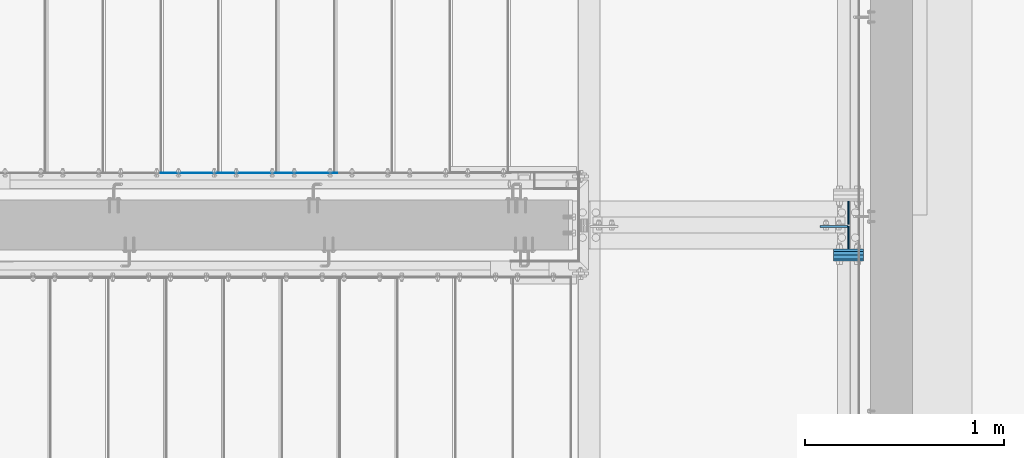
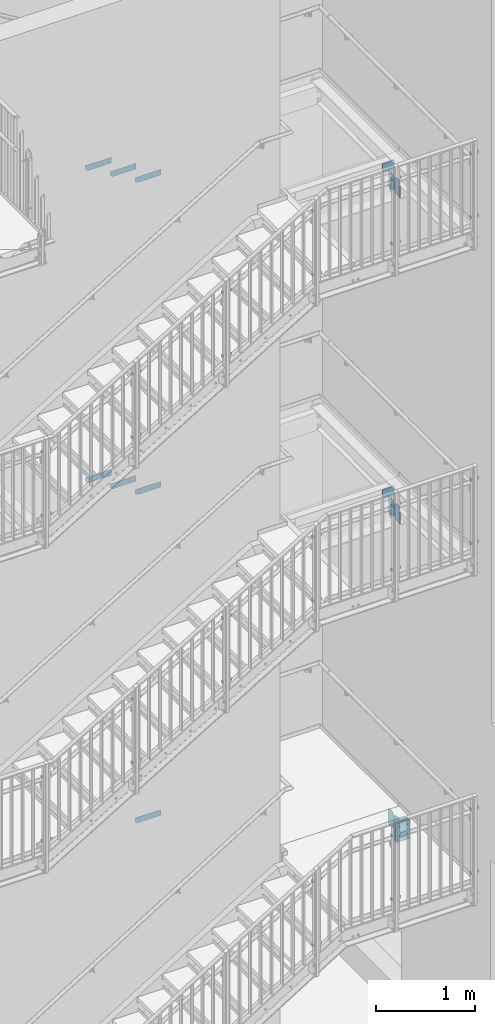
# One storey, part 63 of 410: 17 plates, 48 openings.
"""IFC2X3 building model written with IfcOpenShell, lengths in millimetres."""

from ifc_helpers import new_model, entity, si_unit, converted_unit, point, frame, frame_2d, origin, origin_with_axes, origin_2d_with_axis, place, context, project, spatial, polyline, circle_curve, line_curve, trimmed, segment, composite_curve, circle, outline, extrude, material, layer, layer_set, element, save


model = new_model("IFC2X3")

# Units and contexts
model_context = context("Model", 3, precision=1e-09, world=origin_with_axes())
ifc_project = project(units=[si_unit("LENGTHUNIT", "METRE", prefix="MILLI"), si_unit("AREAUNIT", "SQUARE_METRE"), si_unit("VOLUMEUNIT", "CUBIC_METRE"), converted_unit("PLANEANGLEUNIT", "DEGREE", entity("IfcPlaneAngleMeasure", 0.01745329), si_unit("PLANEANGLEUNIT", "RADIAN"), dimensions=[0, 0, 0, 0, 0, 0, 0])], contexts=[model_context])

# Site, building, storey
site_placement = place(None, origin_with_axes())
site = spatial("IfcSite", under=ifc_project, at=site_placement, Name="mKR Teilneubau & Sanierung BA1 - Ostfildern", CompositionType="ELEMENT")
building_placement = place(site_placement, origin_with_axes())
building = spatial("IfcBuilding", under=site, at=building_placement, Name="Struktur 1", CompositionType="ELEMENT")
storey_placement = place(building_placement, origin_with_axes())
storey = spatial("IfcBuildingStorey", under=building, at=storey_placement, Name="Default Storey", CompositionType="ELEMENT", Elevation=0.0)

# Plate, openings
ifc_material = material(Name="S235JR")
ifc_layer_1 = layer(ifc_material, 3.0)
ifc_layer_set_1 = layer_set([ifc_layer_1], Name="S235JR")
plate_1_placement = place(None, frame((35.0, 17239.999999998, 6800.0), z_axis=(0.0, 1.0, 0.0), x_axis=(0.0, 0.0, -1.0)))
plate_1 = element("IfcPlate", 1, at=plate_1_placement, inside=storey, material=ifc_layer_set_1, Name="Grate_Step#2", ObjectType="Grate_Step#2", context=model_context, shape_type="SweptSolid", body=[
    extrude(outline(polyline([(0.0, 0.0), (70.0, 0.0), (70.0, 275.0), (40.0, 305.0), (0.0, 305.0), (0.0, 0.0)])), origin_with_axes(), (0.0, 0.0, 1.0), 3.0),
])
opening_1_placement = place(plate_1_placement, frame((55.0, 215.0, 3.5), z_axis=(0.0, 0.0, -1.0), x_axis=(0.0, 1.0, 0.0)))
element("IfcOpeningElement", 2, at=opening_1_placement, cuts=plate_1, ObjectType="Opening", context=model_context, shape_type="SweptSolid", body=[
    extrude(outline(composite_curve([segment(trimmed(line_curve((-9.5, -7.001), (1.0, 0.0), 19.0), [point((-9.5, -7.001))], [point((9.5, -7.001))], True, "CARTESIAN"), True, "CONTINUOUS"), segment(trimmed(circle_curve(frame_2d((9.5, 0.0), x_axis=(1.0, 0.0)), 7.001), [point((9.5, -7.001))], [point((9.5, 7.001))], True, "CARTESIAN"), True, "CONTINUOUS"), segment(trimmed(line_curve((9.5, 7.001), (-1.0, 0.0), 19.0), [point((9.5, 7.001))], [point((-9.5, 7.001))], True, "CARTESIAN"), True, "CONTINUOUS"), segment(trimmed(circle_curve(frame_2d((-9.5, 0.0), x_axis=(1.0, 0.0)), 7.001), [point((-9.5, 7.001))], [point((-9.5, -7.001))], True, "CARTESIAN"), True, "CONTINUOUS")], self_intersect=False)), origin(), (0.0, 0.0, 1.0), 4.0),
])
opening_2_placement = place(plate_1_placement, frame((55.0, 35.0, 3.5), z_axis=(0.0, 0.0, -1.0), x_axis=(0.0, 1.0, 0.0)))
element("IfcOpeningElement", 3, at=opening_2_placement, cuts=plate_1, ObjectType="Opening", context=model_context, shape_type="SweptSolid", body=[
    extrude(circle(Radius=7.001, at=origin_2d_with_axis()), origin(), (0.0, 0.0, 1.0), 4.0),
])

plate_2_placement = place(None, frame((325.0, 17239.999999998, 6625.0), z_axis=(0.0, 1.0, 0.0), x_axis=(0.0, 0.0, -1.0)))
plate_2 = element("IfcPlate", 4, at=plate_2_placement, inside=storey, material=ifc_layer_set_1, Name="Grate_Step#2", ObjectType="Grate_Step#2", context=model_context, shape_type="SweptSolid", body=[
    extrude(outline(polyline([(0.0, 0.0), (70.0, 0.0), (70.0, 275.0), (40.0, 305.0), (0.0, 305.0), (0.0, 0.0)])), origin_with_axes(), (0.0, 0.0, 1.0), 3.0),
])
opening_3_placement = place(plate_2_placement, frame((55.0, 215.0, 3.5), z_axis=(0.0, 0.0, -1.0), x_axis=(0.0, 1.0, 0.0)))
element("IfcOpeningElement", 5, at=opening_3_placement, cuts=plate_2, ObjectType="Opening", context=model_context, shape_type="SweptSolid", body=[
    extrude(outline(composite_curve([segment(trimmed(line_curve((-9.5, -7.001), (1.0, 0.0), 19.0), [point((-9.5, -7.001))], [point((9.5, -7.001))], True, "CARTESIAN"), True, "CONTINUOUS"), segment(trimmed(circle_curve(frame_2d((9.5, 0.0), x_axis=(1.0, 0.0)), 7.001), [point((9.5, -7.001))], [point((9.5, 7.001))], True, "CARTESIAN"), True, "CONTINUOUS"), segment(trimmed(line_curve((9.5, 7.001), (-1.0, 0.0), 19.0), [point((9.5, 7.001))], [point((-9.5, 7.001))], True, "CARTESIAN"), True, "CONTINUOUS"), segment(trimmed(circle_curve(frame_2d((-9.5, 0.0), x_axis=(1.0, 0.0)), 7.001), [point((-9.5, 7.001))], [point((-9.5, -7.001))], True, "CARTESIAN"), True, "CONTINUOUS")], self_intersect=False)), origin(), (0.0, 0.0, 1.0), 4.0),
])
opening_4_placement = place(plate_2_placement, frame((55.0, 35.0, 3.5), z_axis=(0.0, 0.0, -1.0), x_axis=(0.0, 1.0, 0.0)))
element("IfcOpeningElement", 6, at=opening_4_placement, cuts=plate_2, ObjectType="Opening", context=model_context, shape_type="SweptSolid", body=[
    extrude(circle(Radius=7.001, at=origin_2d_with_axis()), origin(), (0.0, 0.0, 1.0), 4.0),
])

plate_3_placement = place(None, frame((615.0, 17239.999999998, 6450.0), z_axis=(0.0, 1.0, 0.0), x_axis=(0.0, 0.0, -1.0)))
plate_3 = element("IfcPlate", 7, at=plate_3_placement, inside=storey, material=ifc_layer_set_1, Name="Grate_Step#2", ObjectType="Grate_Step#2", context=model_context, shape_type="SweptSolid", body=[
    extrude(outline(polyline([(0.0, 0.0), (70.0, 0.0), (70.0, 275.0), (40.0, 305.0), (0.0, 305.0), (0.0, 0.0)])), origin_with_axes(), (0.0, 0.0, 1.0), 3.0),
])
opening_5_placement = place(plate_3_placement, frame((55.0, 215.0, 3.5), z_axis=(0.0, 0.0, -1.0), x_axis=(0.0, 1.0, 0.0)))
element("IfcOpeningElement", 8, at=opening_5_placement, cuts=plate_3, ObjectType="Opening", context=model_context, shape_type="SweptSolid", body=[
    extrude(outline(composite_curve([segment(trimmed(line_curve((-9.5, -7.001), (1.0, 0.0), 19.0), [point((-9.5, -7.001))], [point((9.5, -7.001))], True, "CARTESIAN"), True, "CONTINUOUS"), segment(trimmed(circle_curve(frame_2d((9.5, 0.0), x_axis=(1.0, 0.0)), 7.001), [point((9.5, -7.001))], [point((9.5, 7.001))], True, "CARTESIAN"), True, "CONTINUOUS"), segment(trimmed(line_curve((9.5, 7.001), (-1.0, 0.0), 19.0), [point((9.5, 7.001))], [point((-9.5, 7.001))], True, "CARTESIAN"), True, "CONTINUOUS"), segment(trimmed(circle_curve(frame_2d((-9.5, 0.0), x_axis=(1.0, 0.0)), 7.001), [point((-9.5, 7.001))], [point((-9.5, -7.001))], True, "CARTESIAN"), True, "CONTINUOUS")], self_intersect=False)), origin(), (0.0, 0.0, 1.0), 4.0),
])
opening_6_placement = place(plate_3_placement, frame((55.0, 35.0, 3.5), z_axis=(0.0, 0.0, -1.0), x_axis=(0.0, 1.0, 0.0)))
element("IfcOpeningElement", 9, at=opening_6_placement, cuts=plate_3, ObjectType="Opening", context=model_context, shape_type="SweptSolid", body=[
    extrude(circle(Radius=7.001, at=origin_2d_with_axis()), origin(), (0.0, 0.0, 1.0), 4.0),
])

plate_4_placement = place(None, frame((615.0, 17239.999999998, 2608.6956525), z_axis=(0.0, 1.0, 0.0), x_axis=(0.0, 0.0, -1.0)))
plate_4 = element("IfcPlate", 10, at=plate_4_placement, inside=storey, material=ifc_layer_set_1, Name="Grate_Step#2", ObjectType="Grate_Step#2", context=model_context, shape_type="SweptSolid", body=[
    extrude(outline(polyline([(0.0, 0.0), (70.0, 0.0), (70.0, 275.0), (40.0, 305.0), (0.0, 305.0), (0.0, 0.0)])), origin_with_axes(), (0.0, 0.0, 1.0), 3.0),
])
opening_7_placement = place(plate_4_placement, frame((55.0, 215.0, 3.5), z_axis=(0.0, 0.0, -1.0), x_axis=(0.0, 1.0, 0.0)))
element("IfcOpeningElement", 11, at=opening_7_placement, cuts=plate_4, ObjectType="Opening", context=model_context, shape_type="SweptSolid", body=[
    extrude(outline(composite_curve([segment(trimmed(line_curve((-9.5, -7.001), (1.0, 0.0), 19.0), [point((-9.5, -7.001))], [point((9.5, -7.001))], True, "CARTESIAN"), True, "CONTINUOUS"), segment(trimmed(circle_curve(frame_2d((9.5, 0.0), x_axis=(1.0, 0.0)), 7.001), [point((9.5, -7.001))], [point((9.5, 7.001))], True, "CARTESIAN"), True, "CONTINUOUS"), segment(trimmed(line_curve((9.5, 7.001), (-1.0, 0.0), 19.0), [point((9.5, 7.001))], [point((-9.5, 7.001))], True, "CARTESIAN"), True, "CONTINUOUS"), segment(trimmed(circle_curve(frame_2d((-9.5, 0.0), x_axis=(1.0, 0.0)), 7.001), [point((-9.5, 7.001))], [point((-9.5, -7.001))], True, "CARTESIAN"), True, "CONTINUOUS")], self_intersect=False)), origin(), (0.0, 0.0, 1.0), 4.0),
])
opening_8_placement = place(plate_4_placement, frame((55.0, 35.0, 3.5), z_axis=(0.0, 0.0, -1.0), x_axis=(0.0, 1.0, 0.0)))
element("IfcOpeningElement", 12, at=opening_8_placement, cuts=plate_4, ObjectType="Opening", context=model_context, shape_type="SweptSolid", body=[
    extrude(circle(Radius=7.001, at=origin_2d_with_axis()), origin(), (0.0, 0.0, 1.0), 4.0),
])

plate_5_placement = place(None, frame((325.0, 17239.999999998, 2782.608696), z_axis=(0.0, 1.0, 0.0), x_axis=(0.0, 0.0, -1.0)))
plate_5 = element("IfcPlate", 13, at=plate_5_placement, inside=storey, material=ifc_layer_set_1, Name="Grate_Step#2", ObjectType="Grate_Step#2", context=model_context, shape_type="SweptSolid", body=[
    extrude(outline(polyline([(0.0, 0.0), (70.0, 0.0), (70.0, 275.0), (40.0, 305.0), (0.0, 305.0), (0.0, 0.0)])), origin_with_axes(), (0.0, 0.0, 1.0), 3.0),
])
opening_9_placement = place(plate_5_placement, frame((55.0, 215.0, 3.5), z_axis=(0.0, 0.0, -1.0), x_axis=(0.0, 1.0, 0.0)))
element("IfcOpeningElement", 14, at=opening_9_placement, cuts=plate_5, ObjectType="Opening", context=model_context, shape_type="SweptSolid", body=[
    extrude(outline(composite_curve([segment(trimmed(line_curve((-9.5, -7.001), (1.0, 0.0), 19.0), [point((-9.5, -7.001))], [point((9.5, -7.001))], True, "CARTESIAN"), True, "CONTINUOUS"), segment(trimmed(circle_curve(frame_2d((9.5, 0.0), x_axis=(1.0, 0.0)), 7.001), [point((9.5, -7.001))], [point((9.5, 7.001))], True, "CARTESIAN"), True, "CONTINUOUS"), segment(trimmed(line_curve((9.5, 7.001), (-1.0, 0.0), 19.0), [point((9.5, 7.001))], [point((-9.5, 7.001))], True, "CARTESIAN"), True, "CONTINUOUS"), segment(trimmed(circle_curve(frame_2d((-9.5, 0.0), x_axis=(1.0, 0.0)), 7.001), [point((-9.5, 7.001))], [point((-9.5, -7.001))], True, "CARTESIAN"), True, "CONTINUOUS")], self_intersect=False)), origin(), (0.0, 0.0, 1.0), 4.0),
])
opening_10_placement = place(plate_5_placement, frame((55.0, 35.0, 3.5), z_axis=(0.0, 0.0, -1.0), x_axis=(0.0, 1.0, 0.0)))
element("IfcOpeningElement", 15, at=opening_10_placement, cuts=plate_5, ObjectType="Opening", context=model_context, shape_type="SweptSolid", body=[
    extrude(circle(Radius=7.001, at=origin_2d_with_axis()), origin(), (0.0, 0.0, 1.0), 4.0),
])

plate_6_placement = place(None, frame((35.0, 17239.999999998, 2956.5217395), z_axis=(0.0, 1.0, 0.0), x_axis=(0.0, 0.0, -1.0)))
plate_6 = element("IfcPlate", 16, at=plate_6_placement, inside=storey, material=ifc_layer_set_1, Name="Grate_Step#2", ObjectType="Grate_Step#2", context=model_context, shape_type="SweptSolid", body=[
    extrude(outline(polyline([(0.0, 0.0), (70.0, 0.0), (70.0, 275.0), (40.0, 305.0), (0.0, 305.0), (0.0, 0.0)])), origin_with_axes(), (0.0, 0.0, 1.0), 3.0),
])
opening_11_placement = place(plate_6_placement, frame((55.0, 35.0, 3.5), z_axis=(0.0, 0.0, -1.0), x_axis=(0.0, 1.0, 0.0)))
element("IfcOpeningElement", 17, at=opening_11_placement, cuts=plate_6, ObjectType="Opening", context=model_context, shape_type="SweptSolid", body=[
    extrude(circle(Radius=7.001, at=origin_2d_with_axis()), origin(), (0.0, 0.0, 1.0), 4.0),
])
opening_12_placement = place(plate_6_placement, frame((55.0, 215.0, 3.5), z_axis=(0.0, 0.0, -1.0), x_axis=(0.0, 1.0, 0.0)))
element("IfcOpeningElement", 18, at=opening_12_placement, cuts=plate_6, ObjectType="Opening", context=model_context, shape_type="SweptSolid", body=[
    extrude(outline(composite_curve([segment(trimmed(line_curve((-9.5, -7.001), (1.0, 0.0), 19.0), [point((-9.5, -7.001))], [point((9.5, -7.001))], True, "CARTESIAN"), True, "CONTINUOUS"), segment(trimmed(circle_curve(frame_2d((9.5, 0.0), x_axis=(1.0, 0.0)), 7.001), [point((9.5, -7.001))], [point((9.5, 7.001))], True, "CARTESIAN"), True, "CONTINUOUS"), segment(trimmed(line_curve((9.5, 7.001), (-1.0, 0.0), 19.0), [point((9.5, 7.001))], [point((-9.5, 7.001))], True, "CARTESIAN"), True, "CONTINUOUS"), segment(trimmed(circle_curve(frame_2d((-9.5, 0.0), x_axis=(1.0, 0.0)), 7.001), [point((-9.5, 7.001))], [point((-9.5, -7.001))], True, "CARTESIAN"), True, "CONTINUOUS")], self_intersect=False)), origin(), (0.0, 0.0, 1.0), 4.0),
])

plate_7_placement = place(None, frame((615.0, 17239.999999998, -1430.4), z_axis=(0.0, 1.0, 0.0), x_axis=(0.0, 0.0, -1.0)))
plate_7 = element("IfcPlate", 19, at=plate_7_placement, inside=storey, material=ifc_layer_set_1, Name="Grate_Step#2", ObjectType="Grate_Step#2", context=model_context, shape_type="SweptSolid", body=[
    extrude(outline(polyline([(0.0, 0.0), (70.0, 0.0), (70.0, 275.0), (40.0, 305.0), (0.0, 305.0), (0.0, 0.0)])), origin_with_axes(), (0.0, 0.0, 1.0), 3.0),
])
opening_13_placement = place(plate_7_placement, frame((55.0, 35.0, 3.5), z_axis=(0.0, 0.0, -1.0), x_axis=(0.0, 1.0, 0.0)))
element("IfcOpeningElement", 20, at=opening_13_placement, cuts=plate_7, ObjectType="Opening", context=model_context, shape_type="SweptSolid", body=[
    extrude(circle(Radius=7.001, at=origin_2d_with_axis()), origin(), (0.0, 0.0, 1.0), 4.0),
])
opening_14_placement = place(plate_7_placement, frame((55.0, 215.0, 3.5), z_axis=(0.0, 0.0, -1.0), x_axis=(0.0, 1.0, 0.0)))
element("IfcOpeningElement", 21, at=opening_14_placement, cuts=plate_7, ObjectType="Opening", context=model_context, shape_type="SweptSolid", body=[
    extrude(outline(composite_curve([segment(trimmed(line_curve((-9.5, -7.001), (1.0, 0.0), 19.0), [point((-9.5, -7.001))], [point((9.5, -7.001))], True, "CARTESIAN"), True, "CONTINUOUS"), segment(trimmed(circle_curve(frame_2d((9.5, 0.0), x_axis=(1.0, 0.0)), 7.001), [point((9.5, -7.001))], [point((9.5, 7.001))], True, "CARTESIAN"), True, "CONTINUOUS"), segment(trimmed(line_curve((9.5, 7.001), (-1.0, 0.0), 19.0), [point((9.5, 7.001))], [point((-9.5, 7.001))], True, "CARTESIAN"), True, "CONTINUOUS"), segment(trimmed(circle_curve(frame_2d((-9.5, 0.0), x_axis=(1.0, 0.0)), 7.001), [point((-9.5, 7.001))], [point((-9.5, -7.001))], True, "CARTESIAN"), True, "CONTINUOUS")], self_intersect=False)), origin(), (0.0, 0.0, 1.0), 4.0),
])

ifc_layer_2 = layer(ifc_material, 30.0)
ifc_layer_set_2 = layer_set([ifc_layer_2], Name="S235JR")
plate_8_placement = place(None, frame((3180.001468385, 16830.0, -2325.599999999), z_axis=(0.0, 1.0, 0.0), x_axis=(-1.0, 0.0, 0.0)))
plate_8 = element("IfcPlate", 22, at=plate_8_placement, inside=storey, material=ifc_layer_set_2, Name="-", ObjectType="-", context=model_context, shape_type="SweptSolid", body=[
    extrude(outline(polyline([(-75.0, -120.0), (75.0, -120.0), (75.0, 120.0), (-75.0, 120.0), (-75.0, -120.0)])), origin_with_axes(), (0.0, 0.0, -1.0), 30.0),
])
opening_15_placement = place(plate_8_placement, frame((75.001, 120.0, -30.0), z_axis=(-1.0, 0.0, 0.0), x_axis=(0.0, -1.0, 0.0)))
element("IfcOpeningElement", 23, at=opening_15_placement, cuts=plate_8, ObjectType="Opening", context=model_context, shape_type="SweptSolid", body=[
    extrude(outline(polyline([(0.0, 0.0), (9.0, 0.0), (0.0, 9.0), (0.0, 0.0)])), origin(), (0.0, 0.0, 1.0), 150.022),
])
opening_16_placement = place(plate_8_placement, frame((33.999, 70.0, 0.5), z_axis=(0.0, 0.0, 1.0), x_axis=(1.0, 0.0, 0.0)))
element("IfcOpeningElement", 24, at=opening_16_placement, cuts=plate_8, ObjectType="Opening", context=model_context, shape_type="SweptSolid", body=[
    extrude(circle(Radius=11.001, at=frame_2d((11.001, 0.0), x_axis=(1.0, 0.0))), origin(), (0.0, 0.0, -1.0), 31.0),
])
opening_17_placement = place(plate_8_placement, frame((-56.001, 70.0, 0.5), z_axis=(0.0, 0.0, 1.0), x_axis=(1.0, 0.0, 0.0)))
element("IfcOpeningElement", 25, at=opening_17_placement, cuts=plate_8, ObjectType="Opening", context=model_context, shape_type="SweptSolid", body=[
    extrude(circle(Radius=11.001, at=frame_2d((11.001, 0.0), x_axis=(1.0, 0.0))), origin(), (0.0, 0.0, -1.0), 31.0),
])
opening_18_placement = place(plate_8_placement, frame((33.999, -50.0, 0.5), z_axis=(0.0, 0.0, 1.0), x_axis=(1.0, 0.0, 0.0)))
element("IfcOpeningElement", 26, at=opening_18_placement, cuts=plate_8, ObjectType="Opening", context=model_context, shape_type="SweptSolid", body=[
    extrude(circle(Radius=11.001, at=frame_2d((11.001, 0.0), x_axis=(1.0, 0.0))), origin(), (0.0, 0.0, -1.0), 31.0),
])
opening_19_placement = place(plate_8_placement, frame((-56.001, -50.0, 0.5), z_axis=(0.0, 0.0, 1.0), x_axis=(1.0, 0.0, 0.0)))
element("IfcOpeningElement", 27, at=opening_19_placement, cuts=plate_8, ObjectType="Opening", context=model_context, shape_type="SweptSolid", body=[
    extrude(circle(Radius=11.001, at=frame_2d((11.001, 0.0), x_axis=(1.0, 0.0))), origin(), (0.0, 0.0, -1.0), 31.0),
])

plate_9_placement = place(None, frame((3180.001468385, 16860.0, -2325.599999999), z_axis=(0.0, 1.0, 0.0), x_axis=(-1.0, 0.0, 0.0)))
plate_9 = element("IfcPlate", 28, at=plate_9_placement, inside=storey, material=ifc_layer_set_2, Name="-", ObjectType="-", context=model_context, shape_type="SweptSolid", body=[
    extrude(outline(polyline([(-75.0, -120.0), (75.0, -120.0), (75.0, 120.0), (-75.0, 120.0), (-75.0, -120.0)])), origin_with_axes(), (0.0, 0.0, -1.0), 30.0),
])
opening_20_placement = place(plate_9_placement, frame((33.999, 70.0, 0.5), z_axis=(0.0, 0.0, 1.0), x_axis=(1.0, 0.0, 0.0)))
element("IfcOpeningElement", 29, at=opening_20_placement, cuts=plate_9, ObjectType="Opening", context=model_context, shape_type="SweptSolid", body=[
    extrude(circle(Radius=11.001, at=frame_2d((11.001, 0.0), x_axis=(1.0, 0.0))), origin(), (0.0, 0.0, -1.0), 31.0),
])
opening_21_placement = place(plate_9_placement, frame((-56.001, 70.0, 0.5), z_axis=(0.0, 0.0, 1.0), x_axis=(1.0, 0.0, 0.0)))
element("IfcOpeningElement", 30, at=opening_21_placement, cuts=plate_9, ObjectType="Opening", context=model_context, shape_type="SweptSolid", body=[
    extrude(circle(Radius=11.001, at=frame_2d((11.001, 0.0), x_axis=(1.0, 0.0))), origin(), (0.0, 0.0, -1.0), 31.0),
])
opening_22_placement = place(plate_9_placement, frame((33.999, -50.0, 0.5), z_axis=(0.0, 0.0, 1.0), x_axis=(1.0, 0.0, 0.0)))
element("IfcOpeningElement", 31, at=opening_22_placement, cuts=plate_9, ObjectType="Opening", context=model_context, shape_type="SweptSolid", body=[
    extrude(circle(Radius=11.001, at=frame_2d((11.001, 0.0), x_axis=(1.0, 0.0))), origin(), (0.0, 0.0, -1.0), 31.0),
])
opening_23_placement = place(plate_9_placement, frame((-56.001, -50.0, 0.5), z_axis=(0.0, 0.0, 1.0), x_axis=(1.0, 0.0, 0.0)))
element("IfcOpeningElement", 32, at=opening_23_placement, cuts=plate_9, ObjectType="Opening", context=model_context, shape_type="SweptSolid", body=[
    extrude(circle(Radius=11.001, at=frame_2d((11.001, 0.0), x_axis=(1.0, 0.0))), origin(), (0.0, 0.0, -1.0), 31.0),
])
opening_24_placement = place(plate_9_placement, frame((-75.001, 120.0, 0.0), z_axis=(1.0, 0.0, 0.0), x_axis=(0.0, -1.0, 0.0)))
element("IfcOpeningElement", 33, at=opening_24_placement, cuts=plate_9, ObjectType="Opening", context=model_context, shape_type="SweptSolid", body=[
    extrude(outline(polyline([(0.0, 0.0), (12.0, 0.0), (0.0, 12.0), (0.0, 0.0)])), origin(), (0.0, 0.0, 1.0), 150.022),
])
opening_25_placement = place(plate_9_placement, frame((33.999, 70.0, 0.5), z_axis=(0.0, 0.0, 1.0), x_axis=(1.0, 0.0, 0.0)))
element("IfcOpeningElement", 34, at=opening_25_placement, cuts=plate_9, ObjectType="Opening", context=model_context, shape_type="SweptSolid", body=[
    extrude(circle(Radius=11.001, at=frame_2d((11.001, 0.0), x_axis=(1.0, 0.0))), origin(), (0.0, 0.0, -1.0), 31.0),
])
opening_26_placement = place(plate_9_placement, frame((-56.001, 70.0, 0.5), z_axis=(0.0, 0.0, 1.0), x_axis=(1.0, 0.0, 0.0)))
element("IfcOpeningElement", 35, at=opening_26_placement, cuts=plate_9, ObjectType="Opening", context=model_context, shape_type="SweptSolid", body=[
    extrude(circle(Radius=11.001, at=frame_2d((11.001, 0.0), x_axis=(1.0, 0.0))), origin(), (0.0, 0.0, -1.0), 31.0),
])
opening_27_placement = place(plate_9_placement, frame((33.999, -50.0, 0.5), z_axis=(0.0, 0.0, 1.0), x_axis=(1.0, 0.0, 0.0)))
element("IfcOpeningElement", 36, at=opening_27_placement, cuts=plate_9, ObjectType="Opening", context=model_context, shape_type="SweptSolid", body=[
    extrude(circle(Radius=11.001, at=frame_2d((11.001, 0.0), x_axis=(1.0, 0.0))), origin(), (0.0, 0.0, -1.0), 31.0),
])
opening_28_placement = place(plate_9_placement, frame((-56.001, -50.0, 0.5), z_axis=(0.0, 0.0, 1.0), x_axis=(1.0, 0.0, 0.0)))
element("IfcOpeningElement", 37, at=opening_28_placement, cuts=plate_9, ObjectType="Opening", context=model_context, shape_type="SweptSolid", body=[
    extrude(circle(Radius=11.001, at=frame_2d((11.001, 0.0), x_axis=(1.0, 0.0))), origin(), (0.0, 0.0, -1.0), 31.0),
])

ifc_layer_3 = layer(ifc_material, 10.0)
ifc_layer_set_3 = layer_set([ifc_layer_3], Name="S235JR")
plate_10_placement = place(None, frame((3107.051468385, 16977.5, 1773.0434785), z_axis=(0.0, 1.0, 0.0), x_axis=(-1.0, 0.0, 0.0)))
plate_10 = element("IfcPlate", 38, at=plate_10_placement, inside=storey, material=ifc_layer_set_3, Name="-", ObjectType="-", context=model_context, shape_type="SweptSolid", body=[
    extrude(outline(polyline([(-70.0, -50.0), (70.0, -50.0), (70.0, 50.0), (-70.0, 50.0), (-70.0, -50.0)])), origin_with_axes(), (0.0, 0.0, -1.0), 10.0),
])
opening_29_placement = place(plate_10_placement, frame((30.999, 0.0, 0.5), z_axis=(0.0, 0.0, 1.0), x_axis=(1.0, 0.0, 0.0)))
element("IfcOpeningElement", 39, at=opening_29_placement, cuts=plate_10, ObjectType="Opening", context=model_context, shape_type="SweptSolid", body=[
    extrude(circle(Radius=9.001, at=frame_2d((9.001, 0.0), x_axis=(1.0, 0.0))), origin(), (0.0, 0.0, -1.0), 11.0),
])
opening_30_placement = place(plate_10_placement, frame((-34.001, 0.0, 0.5), z_axis=(0.0, 0.0, 1.0), x_axis=(1.0, 0.0, 0.0)))
element("IfcOpeningElement", 40, at=opening_30_placement, cuts=plate_10, ObjectType="Opening", context=model_context, shape_type="SweptSolid", body=[
    extrude(circle(Radius=9.001, at=frame_2d((9.001, 0.0), x_axis=(1.0, 0.0))), origin(), (0.0, 0.0, -1.0), 11.0),
])

plate_11_placement = place(None, frame((3107.051468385, 16977.5, 5785.0), z_axis=(0.0, 1.0, 0.0), x_axis=(-1.0, 0.0, 0.0)))
plate_11 = element("IfcPlate", 41, at=plate_11_placement, inside=storey, material=ifc_layer_set_3, Name="-", ObjectType="-", context=model_context, shape_type="SweptSolid", body=[
    extrude(outline(polyline([(-70.0, -50.0), (70.0, -50.0), (70.0, 50.0), (-70.0, 50.0), (-70.0, -50.0)])), origin_with_axes(), (0.0, 0.0, -1.0), 10.0),
])
opening_31_placement = place(plate_11_placement, frame((30.999, 0.0, 0.5), z_axis=(0.0, 0.0, 1.0), x_axis=(1.0, 0.0, 0.0)))
element("IfcOpeningElement", 42, at=opening_31_placement, cuts=plate_11, ObjectType="Opening", context=model_context, shape_type="SweptSolid", body=[
    extrude(circle(Radius=9.001, at=frame_2d((9.001, 0.0), x_axis=(1.0, 0.0))), origin(), (0.0, 0.0, -1.0), 11.0),
])
opening_32_placement = place(plate_11_placement, frame((-34.001, 0.0, 0.5), z_axis=(0.0, 0.0, 1.0), x_axis=(1.0, 0.0, 0.0)))
element("IfcOpeningElement", 43, at=opening_32_placement, cuts=plate_11, ObjectType="Opening", context=model_context, shape_type="SweptSolid", body=[
    extrude(circle(Radius=9.001, at=frame_2d((9.001, 0.0), x_axis=(1.0, 0.0))), origin(), (0.0, 0.0, -1.0), 11.0),
])

ifc_layer_4 = layer(ifc_material, 6.0)
ifc_layer_set_4 = layer_set([ifc_layer_4], Name="S235JR")
plate_12_placement = place(None, frame((3183.001468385, 16984.75, -2219.1), z_axis=(-1.0, 0.0, 0.0), x_axis=(0.0, 1.0, 0.0)))
plate_12 = element("IfcPlate", 44, at=plate_12_placement, inside=storey, material=ifc_layer_set_4, Name="Stiffener#1", ObjectType="Stiffener#1", context=model_context, shape_type="SweptSolid", body=[
    extrude(outline(polyline([(0.0, 0.0), (114.0, 0.0), (114.0, 203.0), (0.0, 203.0), (0.0, 0.0)])), origin_with_axes(), (0.0, 0.0, 1.0), 6.0),
])
opening_33_placement = place(plate_12_placement, frame((0.0, 0.0, -0.01), z_axis=(0.0, 0.0, 1.0), x_axis=(1.0, 0.0, 0.0)))
element("IfcOpeningElement", 45, at=opening_33_placement, cuts=plate_12, ObjectType="Opening", context=model_context, shape_type="SweptSolid", body=[
    extrude(outline(polyline([(0.0, 203.0), (0.0, 173.0), (30.0, 203.0), (0.0, 203.0)])), origin(), (0.0, 0.0, 1.0), 6.02),
])
opening_34_placement = place(plate_12_placement, frame((0.0, 0.0, -0.01), z_axis=(0.0, 0.0, 1.0), x_axis=(1.0, 0.0, 0.0)))
element("IfcOpeningElement", 46, at=opening_34_placement, cuts=plate_12, ObjectType="Opening", context=model_context, shape_type="SweptSolid", body=[
    extrude(outline(polyline([(0.0, 0.0), (30.0, 0.0), (0.0, 30.0), (0.0, 0.0)])), origin(), (0.0, 0.0, 1.0), 6.02),
])
opening_35_placement = place(plate_12_placement, frame((0.0, 0.0, -0.01), z_axis=(0.0, 0.0, 1.0), x_axis=(1.0, 0.0, 0.0)))
element("IfcOpeningElement", 47, at=opening_35_placement, cuts=plate_12, ObjectType="Opening", context=model_context, shape_type="SweptSolid", body=[
    extrude(outline(polyline([(114.0, 0.0), (114.0, 20.0), (94.0, 0.0), (114.0, 0.0)])), origin(), (0.0, 0.0, 1.0), 6.02),
])
opening_36_placement = place(plate_12_placement, frame((0.0, 0.0, -0.01), z_axis=(0.0, 0.0, 1.0), x_axis=(1.0, 0.0, 0.0)))
element("IfcOpeningElement", 48, at=opening_36_placement, cuts=plate_12, ObjectType="Opening", context=model_context, shape_type="SweptSolid", body=[
    extrude(outline(polyline([(114.0, 203.0), (94.0, 203.0), (114.0, 183.0), (114.0, 203.0)])), origin(), (0.0, 0.0, 1.0), 6.02),
])

plate_13_placement = place(None, frame((3183.001468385, 16861.25, -2219.1), z_axis=(-1.0, 0.0, 0.0), x_axis=(0.0, 1.0, 0.0)))
plate_13 = element("IfcPlate", 49, at=plate_13_placement, inside=storey, material=ifc_layer_set_4, Name="Stiffener#0", ObjectType="Stiffener#0", context=model_context, shape_type="SweptSolid", body=[
    extrude(outline(polyline([(0.0, 0.0), (114.0, 0.0), (114.0, 203.0), (0.0, 203.0), (0.0, 0.0)])), origin_with_axes(), (0.0, 0.0, 1.0), 6.0),
])
opening_37_placement = place(plate_13_placement, frame((0.0, 0.0, -0.01), z_axis=(0.0, 0.0, 1.0), x_axis=(1.0, 0.0, 0.0)))
element("IfcOpeningElement", 50, at=opening_37_placement, cuts=plate_13, ObjectType="Opening", context=model_context, shape_type="SweptSolid", body=[
    extrude(outline(polyline([(114.0, 203.0), (84.0, 203.0), (114.0, 173.0), (114.0, 203.0)])), origin(), (0.0, 0.0, 1.0), 6.02),
])
opening_38_placement = place(plate_13_placement, frame((0.0, 0.0, -0.01), z_axis=(0.0, 0.0, 1.0), x_axis=(1.0, 0.0, 0.0)))
element("IfcOpeningElement", 51, at=opening_38_placement, cuts=plate_13, ObjectType="Opening", context=model_context, shape_type="SweptSolid", body=[
    extrude(outline(polyline([(114.0, 0.0), (114.0, 30.0), (84.0, 0.0), (114.0, 0.0)])), origin(), (0.0, 0.0, 1.0), 6.02),
])
opening_39_placement = place(plate_13_placement, frame((0.0, 0.0, -0.01), z_axis=(0.0, 0.0, 1.0), x_axis=(1.0, 0.0, 0.0)))
element("IfcOpeningElement", 52, at=opening_39_placement, cuts=plate_13, ObjectType="Opening", context=model_context, shape_type="SweptSolid", body=[
    extrude(outline(polyline([(0.0, 203.0), (0.0, 183.0), (20.0, 203.0), (0.0, 203.0)])), origin(), (0.0, 0.0, 1.0), 6.02),
])
opening_40_placement = place(plate_13_placement, frame((0.0, 0.0, -0.01), z_axis=(0.0, 0.0, 1.0), x_axis=(1.0, 0.0, 0.0)))
element("IfcOpeningElement", 53, at=opening_40_placement, cuts=plate_13, ObjectType="Opening", context=model_context, shape_type="SweptSolid", body=[
    extrude(outline(polyline([(0.0, 0.0), (20.0, 0.0), (0.0, 20.0), (0.0, 0.0)])), origin(), (0.0, 0.0, 1.0), 6.02),
])

plate_14_placement = place(None, frame((3183.001468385, 16984.75, 1619.5434785), z_axis=(-1.0, 0.0, 0.0), x_axis=(0.0, 1.0, 0.0)))
plate_14 = element("IfcPlate", 54, at=plate_14_placement, inside=storey, material=ifc_layer_set_4, Name="Stiffener#1", ObjectType="Stiffener#1", context=model_context, shape_type="SweptSolid", body=[
    extrude(outline(polyline([(0.0, 0.0), (110.0, 0.0), (110.0, 203.0), (0.0, 203.0), (0.0, 0.0)])), origin_with_axes(), (0.0, 0.0, 1.0), 6.0),
])
opening_41_placement = place(plate_14_placement, frame((0.0, 0.0, -0.01), z_axis=(0.0, 0.0, 1.0), x_axis=(1.0, 0.0, 0.0)))
element("IfcOpeningElement", 55, at=opening_41_placement, cuts=plate_14, ObjectType="Opening", context=model_context, shape_type="SweptSolid", body=[
    extrude(outline(polyline([(0.0, 203.0), (0.0, 173.0), (30.0, 203.0), (0.0, 203.0)])), origin(), (0.0, 0.0, 1.0), 6.02),
])
opening_42_placement = place(plate_14_placement, frame((0.0, 0.0, -0.01), z_axis=(0.0, 0.0, 1.0), x_axis=(1.0, 0.0, 0.0)))
element("IfcOpeningElement", 56, at=opening_42_placement, cuts=plate_14, ObjectType="Opening", context=model_context, shape_type="SweptSolid", body=[
    extrude(outline(polyline([(0.0, 0.0), (30.0, 0.0), (0.0, 30.0), (0.0, 0.0)])), origin(), (0.0, 0.0, 1.0), 6.02),
])

plate_15_placement = place(None, frame((3183.001468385, 16865.25, 1619.5434785), z_axis=(-1.0, 0.0, 0.0), x_axis=(0.0, 1.0, 0.0)))
plate_15 = element("IfcPlate", 57, at=plate_15_placement, inside=storey, material=ifc_layer_set_4, Name="Stiffener#0", ObjectType="Stiffener#0", context=model_context, shape_type="SweptSolid", body=[
    extrude(outline(polyline([(0.0, 0.0), (110.0, 0.0), (110.0, 203.0), (0.0, 203.0), (0.0, 0.0)])), origin_with_axes(), (0.0, 0.0, 1.0), 6.0),
])
opening_43_placement = place(plate_15_placement, frame((0.0, 0.0, -0.01), z_axis=(0.0, 0.0, 1.0), x_axis=(1.0, 0.0, 0.0)))
element("IfcOpeningElement", 58, at=opening_43_placement, cuts=plate_15, ObjectType="Opening", context=model_context, shape_type="SweptSolid", body=[
    extrude(outline(polyline([(110.0, 203.0), (80.0, 203.0), (110.0, 173.0), (110.0, 203.0)])), origin(), (0.0, 0.0, 1.0), 6.02),
])
opening_44_placement = place(plate_15_placement, frame((0.0, 0.0, -0.01), z_axis=(0.0, 0.0, 1.0), x_axis=(1.0, 0.0, 0.0)))
element("IfcOpeningElement", 59, at=opening_44_placement, cuts=plate_15, ObjectType="Opening", context=model_context, shape_type="SweptSolid", body=[
    extrude(outline(polyline([(110.0, 0.0), (110.0, 30.0), (80.0, 0.0), (110.0, 0.0)])), origin(), (0.0, 0.0, 1.0), 6.02),
])

plate_16_placement = place(None, frame((3183.001468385, 16984.75, 5631.5), z_axis=(-1.0, 0.0, 0.0), x_axis=(0.0, 1.0, 0.0)))
plate_16 = element("IfcPlate", 60, at=plate_16_placement, inside=storey, material=ifc_layer_set_4, Name="Stiffener#1", ObjectType="Stiffener#1", context=model_context, shape_type="SweptSolid", body=[
    extrude(outline(polyline([(0.0, 0.0), (110.0, 0.0), (110.0, 203.0), (0.0, 203.0), (0.0, 0.0)])), origin_with_axes(), (0.0, 0.0, 1.0), 6.0),
])
opening_45_placement = place(plate_16_placement, frame((0.0, 0.0, -0.01), z_axis=(0.0, 0.0, 1.0), x_axis=(1.0, 0.0, 0.0)))
element("IfcOpeningElement", 61, at=opening_45_placement, cuts=plate_16, ObjectType="Opening", context=model_context, shape_type="SweptSolid", body=[
    extrude(outline(polyline([(0.0, 203.0), (0.0, 173.0), (30.0, 203.0), (0.0, 203.0)])), origin(), (0.0, 0.0, 1.0), 6.02),
])
opening_46_placement = place(plate_16_placement, frame((0.0, 0.0, -0.01), z_axis=(0.0, 0.0, 1.0), x_axis=(1.0, 0.0, 0.0)))
element("IfcOpeningElement", 62, at=opening_46_placement, cuts=plate_16, ObjectType="Opening", context=model_context, shape_type="SweptSolid", body=[
    extrude(outline(polyline([(0.0, 0.0), (30.0, 0.0), (0.0, 30.0), (0.0, 0.0)])), origin(), (0.0, 0.0, 1.0), 6.02),
])

plate_17_placement = place(None, frame((3183.001468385, 16865.25, 5631.5), z_axis=(-1.0, 0.0, 0.0), x_axis=(0.0, 1.0, 0.0)))
plate_17 = element("IfcPlate", 63, at=plate_17_placement, inside=storey, material=ifc_layer_set_4, Name="Stiffener#0", ObjectType="Stiffener#0", context=model_context, shape_type="SweptSolid", body=[
    extrude(outline(polyline([(0.0, 0.0), (110.0, 0.0), (110.0, 203.0), (0.0, 203.0), (0.0, 0.0)])), origin_with_axes(), (0.0, 0.0, 1.0), 6.0),
])
opening_47_placement = place(plate_17_placement, frame((0.0, 0.0, -0.01), z_axis=(0.0, 0.0, 1.0), x_axis=(1.0, 0.0, 0.0)))
element("IfcOpeningElement", 64, at=opening_47_placement, cuts=plate_17, ObjectType="Opening", context=model_context, shape_type="SweptSolid", body=[
    extrude(outline(polyline([(110.0, 203.0), (80.0, 203.0), (110.0, 173.0), (110.0, 203.0)])), origin(), (0.0, 0.0, 1.0), 6.02),
])
opening_48_placement = place(plate_17_placement, frame((0.0, 0.0, -0.01), z_axis=(0.0, 0.0, 1.0), x_axis=(1.0, 0.0, 0.0)))
element("IfcOpeningElement", 65, at=opening_48_placement, cuts=plate_17, ObjectType="Opening", context=model_context, shape_type="SweptSolid", body=[
    extrude(outline(polyline([(110.0, 0.0), (110.0, 30.0), (80.0, 0.0), (110.0, 0.0)])), origin(), (0.0, 0.0, 1.0), 6.02),
])

save(model, "model.ifc")
